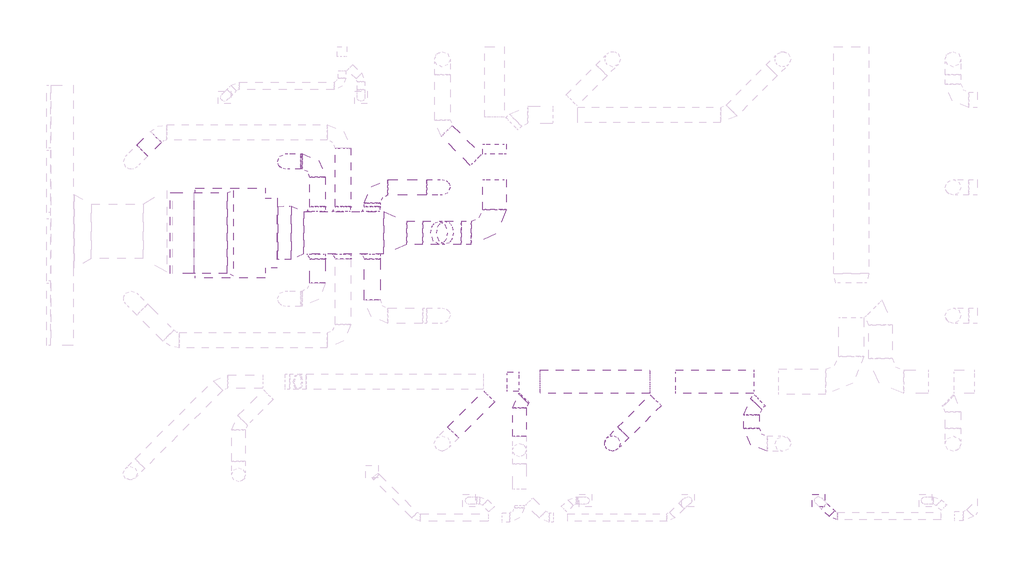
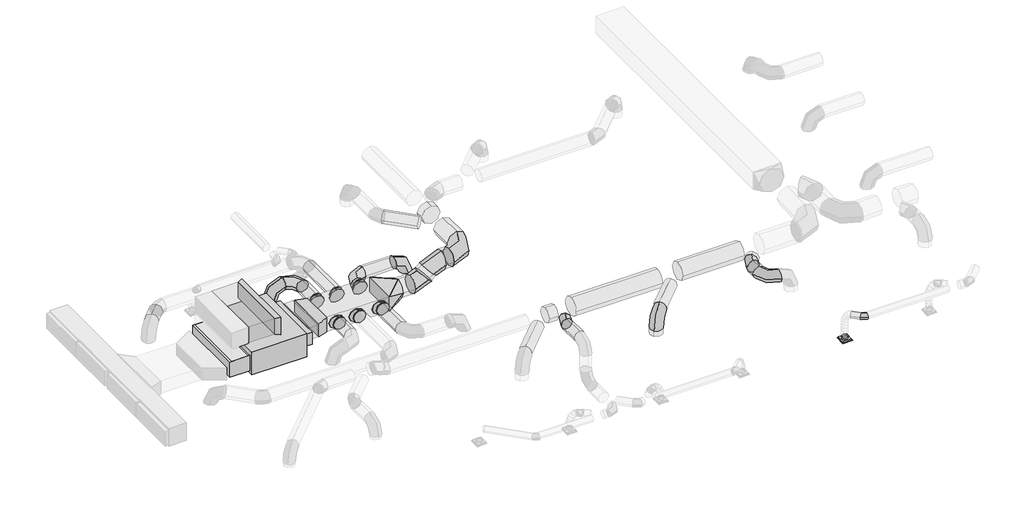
# One storey, part 3 of 33: 28 duct segments, 22 duct fittings, 1 air terminal, 1 proxy.
"""IFC4 building model written with IfcOpenShell, lengths in millimetres."""

from ifc_helpers import new_model, si_unit, point, frame, frame_2d, origin, place, context, project, spatial, polyline, circle_curve, trimmed, segment, composite_curve, outline, extrude, faceted_brep, transform, mapped, element, save
from components import air_terminal_0721d01d, fc_1_fc_1_6bba20b3, rectangular_transition_angle_45_degree_585fbb9b, rectangular_transition_angle_45_degree_32a00531, rectangular_transition_angle_45_degree_6ca9a747, rectangular_to_round_transition_angle_45_degree_3d5aa9e1, round_elbow_1_d_30de4f45, round_elbow_1_d_8aca8b6e, round_elbow_1_d_29f30982, round_elbow_1_d_755a5f0f, round_elbow_1_d_146a3901, round_elbow_1_d_ab3aa7ba, round_takeoff_shoe_standard_4355591a, round_takeoff_shoe_standard_229a81f8

model = new_model("IFC4")

# Units and contexts
model_context = context("Model", 3, world=origin())
ifc_project = project(units=[si_unit("LENGTHUNIT", "METRE", prefix="MILLI")], contexts=[model_context])

# Site, building, storey
site = spatial("IfcSite", under=ifc_project)
building = spatial("IfcBuilding", under=site)
storey = spatial("IfcBuildingStorey", under=building, Name="T.O. SLAB - 1ST", Elevation=-25.4)

# Air terminal
placement = place(None, origin())
air_terminal_shape = air_terminal_0721d01d(model_context)
element("IfcAirTerminal", 1, ObjectType="Titus-Round_Neck_Supply_Diffuser-PCS_Surface_Mount : PCS AA-08_12x12", at=placement, inside=storey, context=model_context, shape_type="MappedRepresentation", body=[
    mapped(air_terminal_shape, transform((17557.721449, 6517.7064145, 3022.6), x_axis=(1.0, 0.0, 0.0), y_axis=(0.0, -1.0, 0.0), z_axis=(0.0, 0.0, -1.0))),
])

# Proxy
fc_1_fc_1_shape = fc_1_fc_1_6bba20b3(model_context)
element("IfcBuildingElementProxy", 2, Name="FC-1 : FC-1", ObjectType="FC-1 : FC-1", at=placement, inside=storey, context=model_context, shape_type="MappedRepresentation", body=[
    mapped(fc_1_fc_1_shape, transform((2182.256743, 13515.736659, 3937.0), x_axis=(1.0, 0.0, 0.0), y_axis=(0.0, 1.0, 0.0), z_axis=(0.0, 0.0, 1.0))),
])

# Duct fittings
rectangular_transition_angle_45_degree_shape = rectangular_transition_angle_45_degree_585fbb9b(model_context)
element("IfcDuctFitting", 3, ObjectType="Rectangular Transition - Angle : 45 Degree", at=placement, inside=storey, context=model_context, shape_type="MappedRepresentation", body=[
    mapped(rectangular_transition_angle_45_degree_shape, transform((3412.569243, 13515.736659, 4307.68125), x_axis=(1.0, 0.0, 0.0), y_axis=(0.0, 1.0, 0.0), z_axis=(0.0, 0.0, 1.0))),
])
rectangular_transition_angle_45_degree_2_shape = rectangular_transition_angle_45_degree_32a00531(model_context)
element("IfcDuctFitting", 4, ObjectType="Rectangular Transition - Angle : 45 Degree", at=placement, inside=storey, context=model_context, shape_type="MappedRepresentation", body=[
    mapped(rectangular_transition_angle_45_degree_2_shape, transform((4104.283468, 13521.292909, 4324.35), x_axis=(-1.0, 0.0, 0.0), y_axis=(0.0, -1.0, 0.0), z_axis=(0.0, 0.0, 1.0))),
])
rectangular_transition_angle_45_degree_3_shape = rectangular_transition_angle_45_degree_6ca9a747(model_context)
element("IfcDuctFitting", 5, ObjectType="Rectangular Transition - Angle : 45 Degree", at=placement, inside=storey, context=model_context, shape_type="MappedRepresentation", body=[
    mapped(rectangular_transition_angle_45_degree_3_shape, transform((2099.0438923, 13514.942909, 5267.325), x_axis=(1.0, 0.0, 0.0), y_axis=(0.0, 1.0, 0.0), z_axis=(0.0, 0.0, 1.0))),
])
rectangular_to_round_transition_angle_45_degree_shape = rectangular_to_round_transition_angle_45_degree_3d5aa9e1(model_context)
element("IfcDuctFitting", 6, ObjectType="Rectangular to Round Transition - Angle : 45 Degree", at=placement, inside=storey, context=model_context, shape_type="MappedRepresentation", body=[
    mapped(rectangular_to_round_transition_angle_45_degree_shape, transform((6183.908468, 13521.292909, 4324.35), x_axis=(1.0, 0.0, 0.0), y_axis=(0.0, 1.0, 0.0), z_axis=(0.0, 0.0, 1.0))),
])
round_elbow_1_d_shape = round_elbow_1_d_30de4f45(model_context)
element("IfcDuctFitting", 7, ObjectType="Round Elbow : 1 D", at=placement, inside=storey, context=model_context, shape_type="MappedRepresentation", body=[
    mapped(round_elbow_1_d_shape, transform((15803.6526059, 8925.5831908, 4826.0), x_axis=(-0.7071067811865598, -0.7071067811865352, 0.0), y_axis=(0.7071067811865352, -0.7071067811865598, 0.0), z_axis=(0.0, 0.0, 1.0))),
])
round_elbow_1_d_2_shape = round_elbow_1_d_8aca8b6e(model_context)
element("IfcDuctFitting", 8, ObjectType="Round Elbow : 1 D", at=placement, inside=storey, context=model_context, shape_type="MappedRepresentation", body=[
    mapped(round_elbow_1_d_2_shape, transform((15803.6526059, 8003.2910045, 4826.0), x_axis=(0.0, -1.0, 0.0), y_axis=(1.0, 0.0, 0.0), z_axis=(0.0, 0.0, 1.0))),
])
element("IfcDuctFitting", 9, ObjectType="Round Elbow : 1 D", at=placement, inside=storey, context=model_context, shape_type="MappedRepresentation", body=[
    mapped(round_elbow_1_d_2_shape, transform((12165.8208695, 8009.0840058, 4826.0), x_axis=(0.0, 0.0, 1.0), y_axis=(0.7067046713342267, 0.7075086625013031, 0.0), z_axis=(-0.7075086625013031, 0.7067046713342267, 0.0))),
])
element("IfcDuctFitting", 10, ObjectType="Round Elbow : 1 D", at=placement, inside=storey, context=model_context, shape_type="MappedRepresentation", body=[
    mapped(round_elbow_1_d_2_shape, transform((5889.3958641, 14708.8910045, 4324.35), x_axis=(-1.0, 0.0, 0.0), y_axis=(0.0, -1.0, 0.0), z_axis=(0.0, 0.0, 1.0))),
])
element("IfcDuctFitting", 11, ObjectType="Round Elbow : 1 D", at=placement, inside=storey, context=model_context, shape_type="MappedRepresentation", body=[
    mapped(round_elbow_1_d_2_shape, transform((7721.5404612, 14708.8910045, 4324.35), x_axis=(0.0, 0.0, 1.0), y_axis=(-1.0, 0.0, 0.0), z_axis=(0.0, -1.0, 0.0))),
])
element("IfcDuctFitting", 12, ObjectType="Round Elbow : 1 D", at=placement, inside=storey, context=model_context, shape_type="MappedRepresentation", body=[
    mapped(round_elbow_1_d_2_shape, transform((3619.0860401, 15386.371589, 4324.35), x_axis=(0.0, 0.0, 1.0), y_axis=(1.0, 0.0, 0.0), z_axis=(0.0, 1.0, 0.0))),
])
element("IfcDuctFitting", 13, ObjectType="Round Elbow : 1 D", at=placement, inside=storey, context=model_context, shape_type="MappedRepresentation", body=[
    mapped(round_elbow_1_d_2_shape, transform((4462.1769123, 15386.371589, 4324.35), x_axis=(0.0, 1.0, 0.0), y_axis=(-1.0, 0.0, 0.0), z_axis=(0.0, 0.0, 1.0))),
])
round_elbow_1_d_3_shape = round_elbow_1_d_29f30982(model_context)
element("IfcDuctFitting", 14, ObjectType="Round Elbow : 1 D", at=placement, inside=storey, context=model_context, shape_type="MappedRepresentation", body=[
    mapped(round_elbow_1_d_3_shape, transform((9084.7808702, 13521.292909, 4832.35), x_axis=(1.0, 0.0, 0.0), y_axis=(0.0, 1.0, 0.0), z_axis=(0.0, 0.0, 1.0))),
])
round_elbow_1_d_4_shape = round_elbow_1_d_755a5f0f(model_context)
element("IfcDuctFitting", 15, ObjectType="Round Elbow : 1 D", at=placement, inside=storey, context=model_context, shape_type="MappedRepresentation", body=[
    mapped(round_elbow_1_d_4_shape, transform((7967.1808702, 13521.292909, 4832.35), x_axis=(-1.0, 0.0, 0.0), y_axis=(0.0, 0.0, -1.0), z_axis=(0.0, -1.0, 0.0))),
])
element("IfcDuctFitting", 16, ObjectType="Round Elbow : 1 D", at=placement, inside=storey, context=model_context, shape_type="MappedRepresentation", body=[
    mapped(round_elbow_1_d_4_shape, transform((7459.1808702, 13521.292909, 4324.35), x_axis=(-0.7071067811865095, 0.0, -0.7071067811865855), y_axis=(-0.7071067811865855, 0.0, 0.7071067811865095), z_axis=(0.0, 1.0, 0.0))),
])
round_elbow_1_d_5_shape = round_elbow_1_d_146a3901(model_context)
element("IfcDuctFitting", 17, ObjectType="Round Elbow : 1 D", at=placement, inside=storey, context=model_context, shape_type="MappedRepresentation", body=[
    mapped(round_elbow_1_d_5_shape, transform((9735.0963271, 9083.0248324, 4826.0), x_axis=(-0.7071067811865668, -0.7071067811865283, 0.0), y_axis=(0.7071067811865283, -0.7071067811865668, 0.0), z_axis=(0.0, 0.0, 1.0))),
])
round_elbow_1_d_6_shape = round_elbow_1_d_ab3aa7ba(model_context)
element("IfcDuctFitting", 18, ObjectType="Round Elbow : 1 D", at=placement, inside=storey, context=model_context, shape_type="MappedRepresentation", body=[
    mapped(round_elbow_1_d_6_shape, transform((17961.4519592, 6115.117656, 3911.6), x_axis=(0.7071067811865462, -0.7071067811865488, 0.0), y_axis=(0.7071067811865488, 0.7071067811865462, 0.0), z_axis=(0.0, 0.0, 1.0))),
])
round_takeoff_shoe_standard_shape = round_takeoff_shoe_standard_4355591a(model_context)
element("IfcDuctFitting", 19, ObjectType="Round Takeoff - Shoe : Standard", at=placement, inside=storey, context=model_context, shape_type="MappedRepresentation", body=[
    mapped(round_takeoff_shoe_standard_shape, transform((5889.3958641, 14080.092909, 4324.35), x_axis=(0.0, 1.0, 0.0), y_axis=(1.0, 0.0, 0.0), z_axis=(0.0, 0.0, -1.0))),
])
element("IfcDuctFitting", 20, ObjectType="Round Takeoff - Shoe : Standard", at=placement, inside=storey, context=model_context, shape_type="MappedRepresentation", body=[
    mapped(round_takeoff_shoe_standard_shape, transform((5126.1463704, 14080.092909, 4324.35), x_axis=(0.0, 1.0, 0.0), y_axis=(1.0, 0.0, 0.0), z_axis=(0.0, 0.0, -1.0))),
])
element("IfcDuctFitting", 21, ObjectType="Round Takeoff - Shoe : Standard", at=placement, inside=storey, context=model_context, shape_type="MappedRepresentation", body=[
    mapped(round_takeoff_shoe_standard_shape, transform((4462.1769123, 14080.092909, 4324.35), x_axis=(0.0, 1.0, 0.0), y_axis=(1.0, 0.0, 0.0), z_axis=(0.0, 0.0, -1.0))),
])
round_takeoff_shoe_standard_2_shape = round_takeoff_shoe_standard_229a81f8(model_context)
element("IfcDuctFitting", 22, ObjectType="Round Takeoff - Shoe : Standard", at=placement, inside=storey, context=model_context, shape_type="MappedRepresentation", body=[
    mapped(round_takeoff_shoe_standard_2_shape, transform((5889.3958641, 12962.492909, 4324.35), x_axis=(0.0, -1.0, 0.0), y_axis=(-1.0, 0.0, 0.0), z_axis=(0.0, 0.0, -1.0))),
])
element("IfcDuctFitting", 23, ObjectType="Round Takeoff - Shoe : Standard", at=placement, inside=storey, context=model_context, shape_type="MappedRepresentation", body=[
    mapped(round_takeoff_shoe_standard_2_shape, transform((5126.1463704, 12962.492909, 4324.35), x_axis=(0.0, -1.0, 0.0), y_axis=(-1.0, 0.0, 0.0), z_axis=(0.0, 0.0, -1.0))),
])
element("IfcDuctFitting", 24, ObjectType="Round Takeoff - Shoe : Standard", at=placement, inside=storey, context=model_context, shape_type="MappedRepresentation", body=[
    mapped(round_takeoff_shoe_standard_2_shape, transform((4462.1769123, 12962.492909, 4324.35), x_axis=(0.0, -1.0, 0.0), y_axis=(-1.0, 0.0, 0.0), z_axis=(0.0, 0.0, -1.0))),
])

# Duct segments
element("IfcDuctSegment", 25, ObjectType="Flex - Rectangular", at=placement, inside=storey, context=model_context, shape_type="Brep", body=[
    faceted_brep([(3767.0178333, 14219.792909, 4540.25), (3767.0178333, 12822.792909, 4540.25), (3767.0178333, 12822.792909, 4108.45), (3767.0178333, 14219.792909, 4108.45), (3720.9928545, 14219.792909, 4540.25), (3734.523703, 12822.792909, 4540.25), (3747.0704898, 12822.792909, 4108.45), (3733.5396413, 14219.792909, 4108.45), (3414.485525, 14214.236659, 4523.58125), (3414.485525, 14214.236659, 4091.78125), (3414.485525, 12817.236659, 4091.78125), (3414.485525, 12817.236659, 4523.58125), (3434.4328685, 14214.236659, 4523.58125), (3447.963717, 12817.236659, 4523.58125), (3460.5105038, 12817.236659, 4091.78125), (3446.9796553, 14214.236659, 4091.78125)], [[[0, 1, 2, 3]], [[1, 0, 4, 5]], [[2, 1, 5, 6]], [[3, 2, 6, 7]], [[0, 3, 7, 4]], [[8, 9, 10, 11]], [[5, 4, 12, 13]], [[6, 5, 13, 14]], [[7, 6, 14, 15]], [[12, 4, 7, 15]], [[13, 12, 8, 11]], [[14, 13, 11, 10]], [[15, 14, 10, 9]], [[12, 15, 9, 8]]]),
])
element("IfcDuctSegment", 26, ObjectType="Mitered Elbows / Tees", at=placement, inside=storey, context=model_context, shape_type="SweptSolid", body=[
    extrude(outline(polyline([(1231.2447938, 12460.842909), (1231.2447938, 14569.042909), (2099.0438923, 14569.042909), (2099.0438923, 12460.842909), (1231.2447938, 12460.842909)])), frame((0.0, 0.0, 5000.625), z_axis=(0.0, 0.0, 1.0), x_axis=(1.0, 0.0, 0.0)), (0.0, 0.0, 1.0), 533.4),
])
element("IfcDuctSegment", 27, ObjectType="Radius Elbows / Tees", at=placement, inside=storey, context=model_context, shape_type="SweptSolid", body=[
    extrude(outline(polyline([(6183.908468, 14080.092909), (6183.908468, 12962.492909), (4104.283468, 12962.492909), (4104.283468, 14080.092909), (6183.908468, 14080.092909)])), frame((0.0, 0.0, 4070.35), z_axis=(0.0, 0.0, 1.0), x_axis=(1.0, 0.0, 0.0)), (0.0, 0.0, 1.0), 508.0),
])
element("IfcDuctSegment", 28, ObjectType="Taps", at=placement, inside=storey, context=model_context, shape_type="SweptSolid", body=[
    extrude(outline(composite_curve([segment(trimmed(circle_curve(frame_2d((9627.2657862, 4826.0)), 304.8), [point((9932.0657862, 4826.0))], [point((9627.2657862, 4521.2))], False, "CARTESIAN"), True, "CONTINUOUS"), segment(trimmed(circle_curve(frame_2d((9627.2657862, 4826.0)), 304.8), [point((9627.2657862, 4521.2))], [point((9322.4657862, 4826.0))], False, "CARTESIAN"), True, "CONTINUOUS"), segment(trimmed(circle_curve(frame_2d((9627.2657862, 4826.0)), 304.8), [point((9322.4657862, 4826.0))], [point((9627.2657862, 5130.8))], False, "CARTESIAN"), True, "CONTINUOUS"), segment(trimmed(circle_curve(frame_2d((9627.2657862, 4826.0)), 304.8), [point((9627.2657862, 5130.8))], [point((9932.0657862, 4826.0))], False, "CARTESIAN"), True, "CONTINUOUS")], self_intersect=False)), frame((10281.3692897, 0.0, 0.0), z_axis=(1.0, 0.0, 0.0), x_axis=(0.0, 1.0, 0.0)), (0.0, 0.0, 1.0), 2858.3767753),
])
element("IfcDuctSegment", 29, ObjectType="Taps", at=placement, inside=storey, context=model_context, shape_type="SweptSolid", body=[
    extrude(outline(composite_curve([segment(trimmed(circle_curve(frame_2d((0.0, -203.2)), 203.2), [point((-203.1999999, -203.2))], [point((0.0, 0.0))], False, "CARTESIAN"), True, "CONTINUOUS"), segment(trimmed(circle_curve(frame_2d((0.0, -203.2)), 203.2), [point((0.0, 0.0))], [point((203.2, -203.2))], False, "CARTESIAN"), True, "CONTINUOUS"), segment(trimmed(circle_curve(frame_2d((0.0, -203.2)), 203.2), [point((203.2, -203.2))], [point((0.0, -406.4))], False, "CARTESIAN"), True, "CONTINUOUS"), segment(trimmed(circle_curve(frame_2d((0.0, -203.2)), 203.2), [point((0.0, -406.4))], [point((-203.1999999, -203.2))], False, "CARTESIAN"), True, "CONTINUOUS")], self_intersect=False)), frame((15922.68441, 9044.614995, 4622.8), z_axis=(0.7071067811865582, 0.7071067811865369, 0.0), x_axis=(0.7071067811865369, -0.7071067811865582, 0.0)), (0.0, 0.0, 1.0), 136.1538982),
])
element("IfcDuctSegment", 30, ObjectType="Taps", at=placement, inside=storey, context=model_context, shape_type="SweptSolid", body=[
    extrude(outline(composite_curve([segment(trimmed(circle_curve(frame_2d((4826.0, 15803.6526059)), 203.2), [point((4826.0, 15600.4526059))], [point((4622.8, 15803.6526059))], False, "CARTESIAN"), True, "CONTINUOUS"), segment(trimmed(circle_curve(frame_2d((4826.0, 15803.6526059)), 203.2), [point((4622.8, 15803.6526059))], [point((4826.0, 16006.8526059))], False, "CARTESIAN"), True, "CONTINUOUS"), segment(trimmed(circle_curve(frame_2d((4826.0, 15803.6526059)), 203.2), [point((4826.0, 16006.8526059))], [point((5029.2, 15803.6526059))], False, "CARTESIAN"), True, "CONTINUOUS"), segment(trimmed(circle_curve(frame_2d((4826.0, 15803.6526059)), 203.2), [point((5029.2, 15803.6526059))], [point((4826.0, 15600.4526059))], False, "CARTESIAN"), True, "CONTINUOUS")], self_intersect=False)), frame((0.0, 8409.6910045, 0.0), z_axis=(0.0, 1.0, 0.0), x_axis=(0.0, 0.0, 1.0)), (0.0, 0.0, 1.0), 347.5557946),
])
element("IfcDuctSegment", 31, ObjectType="Taps", at=placement, inside=storey, context=model_context, shape_type="SweptSolid", body=[
    extrude(outline(composite_curve([segment(trimmed(circle_curve(frame_2d((9627.2657862, 4826.0)), 304.8), [point((9932.0657862, 4826.0))], [point((9627.2657862, 4521.2))], False, "CARTESIAN"), True, "CONTINUOUS"), segment(trimmed(circle_curve(frame_2d((9627.2657862, 4826.0)), 304.8), [point((9627.2657862, 4521.2))], [point((9322.4657862, 4826.0))], False, "CARTESIAN"), True, "CONTINUOUS"), segment(trimmed(circle_curve(frame_2d((9627.2657862, 4826.0)), 304.8), [point((9322.4657862, 4826.0))], [point((9627.2657862, 5130.8))], False, "CARTESIAN"), True, "CONTINUOUS"), segment(trimmed(circle_curve(frame_2d((9627.2657862, 4826.0)), 304.8), [point((9627.2657862, 5130.8))], [point((9932.0657862, 4826.0))], False, "CARTESIAN"), True, "CONTINUOUS")], self_intersect=False)), frame((13816.0824567, 0.0, 0.0), z_axis=(1.0, 0.0, 0.0), x_axis=(0.0, 1.0, 0.0)), (0.0, 0.0, 1.0), 2044.3142245),
])
element("IfcDuctSegment", 32, ObjectType="Taps", at=placement, inside=storey, context=model_context, shape_type="SweptSolid", body=[
    extrude(outline(composite_curve([segment(trimmed(circle_curve(frame_2d((0.0, -203.2)), 203.2), [point((-203.2, -203.2))], [point((0.0, 0.0))], False, "CARTESIAN"), True, "CONTINUOUS"), segment(trimmed(circle_curve(frame_2d((0.0, -203.2)), 203.2), [point((0.0, 0.0))], [point((203.2, -203.2))], False, "CARTESIAN"), True, "CONTINUOUS"), segment(trimmed(circle_curve(frame_2d((0.0, -203.2)), 203.2), [point((203.2, -203.2))], [point((0.0, -406.4))], False, "CARTESIAN"), True, "CONTINUOUS"), segment(trimmed(circle_curve(frame_2d((0.0, -203.2)), 203.2), [point((0.0, -406.4))], [point((-203.2, -203.2))], False, "CARTESIAN"), True, "CONTINUOUS")], self_intersect=False)), frame((12453.0256479, 8296.6155262, 4622.8), z_axis=(0.7067046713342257, 0.7075086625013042, 0.0), x_axis=(0.7075086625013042, -0.7067046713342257, 0.0)), (0.0, 0.0, 1.0), 1196.0915567),
])
element("IfcDuctSegment", 33, ObjectType="Taps", at=placement, inside=storey, context=model_context, shape_type="SweptSolid", body=[
    extrude(outline(composite_curve([segment(trimmed(circle_curve(frame_2d((12165.8208695, 8009.0840058)), 203.2), [point((12309.5866297, 7865.4816166))], [point((12022.2184803, 7865.3182456))], False, "CARTESIAN"), True, "CONTINUOUS"), segment(trimmed(circle_curve(frame_2d((12165.8208695, 8009.0840058)), 203.2), [point((12022.2184803, 7865.3182456))], [point((12022.0551093, 8152.686395))], False, "CARTESIAN"), True, "CONTINUOUS"), segment(trimmed(circle_curve(frame_2d((12165.8208695, 8009.0840058)), 203.2), [point((12022.0551093, 8152.686395))], [point((12309.4232587, 8152.849766))], False, "CARTESIAN"), True, "CONTINUOUS"), segment(trimmed(circle_curve(frame_2d((12165.8208695, 8009.0840058)), 203.2), [point((12309.4232587, 8152.849766))], [point((12309.5866297, 7865.4816166))], False, "CARTESIAN"), True, "CONTINUOUS")], self_intersect=False)), frame((0.0, 0.0, 4216.4), z_axis=(0.0, 0.0, 1.0), x_axis=(1.0, 0.0, 0.0)), (0.0, 0.0, 1.0), 203.2),
])
element("IfcDuctSegment", 34, ObjectType="Taps", at=placement, inside=storey, context=model_context, shape_type="SweptSolid", body=[
    extrude(outline(composite_curve([segment(trimmed(circle_curve(frame_2d((0.0, -177.8)), 177.8), [point((-177.8, -177.8))], [point((0.0, 0.0))], False, "CARTESIAN"), True, "CONTINUOUS"), segment(trimmed(circle_curve(frame_2d((0.0, -177.8)), 177.8), [point((0.0, 0.0))], [point((177.8, -177.8))], False, "CARTESIAN"), True, "CONTINUOUS"), segment(trimmed(circle_curve(frame_2d((0.0, -177.8)), 177.8), [point((177.8, -177.8))], [point((0.0, -355.6))], False, "CARTESIAN"), True, "CONTINUOUS"), segment(trimmed(circle_curve(frame_2d((0.0, -177.8)), 177.8), [point((0.0, -355.6))], [point((-177.8, -177.8))], False, "CARTESIAN"), True, "CONTINUOUS")], self_intersect=False)), frame((9839.2491557, 9187.177661, 4648.2), z_axis=(0.7071067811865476, 0.7071067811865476, 0.0), x_axis=(0.7071067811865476, -0.7071067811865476, 0.0)), (0.0, 0.0, 1.0), 28.0844112),
])
element("IfcDuctSegment", 35, ObjectType="Taps", at=placement, inside=storey, context=model_context, shape_type="SweptSolid", body=[
    extrude(outline(composite_curve([segment(trimmed(circle_curve(frame_2d((4826.0, 9735.0963271)), 177.8), [point((4826.0, 9557.2963271))], [point((4648.2, 9735.0963271))], False, "CARTESIAN"), True, "CONTINUOUS"), segment(trimmed(circle_curve(frame_2d((4826.0, 9735.0963271)), 177.8), [point((4648.2, 9735.0963271))], [point((4826.0, 9912.8963271))], False, "CARTESIAN"), True, "CONTINUOUS"), segment(trimmed(circle_curve(frame_2d((4826.0, 9735.0963271)), 177.8), [point((4826.0, 9912.8963271))], [point((5003.8, 9735.0963271))], False, "CARTESIAN"), True, "CONTINUOUS"), segment(trimmed(circle_curve(frame_2d((4826.0, 9735.0963271)), 177.8), [point((5003.8, 9735.0963271))], [point((4826.0, 9557.2963271))], False, "CARTESIAN"), True, "CONTINUOUS")], self_intersect=False)), frame((0.0, 8195.202261, 0.0), z_axis=(0.0, 1.0, 0.0), x_axis=(0.0, 0.0, 1.0)), (0.0, 0.0, 1.0), 740.5282286),
])
element("IfcDuctSegment", 36, ObjectType="Taps", at=placement, inside=storey, context=model_context, shape_type="SweptSolid", body=[
    extrude(outline(composite_curve([segment(trimmed(circle_curve(frame_2d((9627.2657862, 4826.0)), 254.0), [point((9881.2657862, 4826.0))], [point((9627.2657862, 4572.0))], False, "CARTESIAN"), True, "CONTINUOUS"), segment(trimmed(circle_curve(frame_2d((9627.2657862, 4826.0)), 254.0), [point((9627.2657862, 4572.0))], [point((9373.2657862, 4826.0))], False, "CARTESIAN"), True, "CONTINUOUS"), segment(trimmed(circle_curve(frame_2d((9627.2657862, 4826.0)), 254.0), [point((9373.2657862, 4826.0))], [point((9627.2657862, 5080.0))], False, "CARTESIAN"), True, "CONTINUOUS"), segment(trimmed(circle_curve(frame_2d((9627.2657862, 4826.0)), 254.0), [point((9627.2657862, 5080.0))], [point((9881.2657862, 4826.0))], False, "CARTESIAN"), True, "CONTINUOUS")], self_intersect=False)), frame((9420.8749139, 0.0, 0.0), z_axis=(1.0, 0.0, 0.0), x_axis=(0.0, 1.0, 0.0)), (0.0, 0.0, 1.0), 297.6303582),
])
element("IfcDuctSegment", 37, ObjectType="Taps", at=placement, inside=storey, context=model_context, shape_type="SweptSolid", body=[
    extrude(outline(composite_curve([segment(trimmed(circle_curve(frame_2d((0.0, -203.2)), 203.2), [point((-203.2, -203.2))], [point((0.0, 0.0))], False, "CARTESIAN"), True, "CONTINUOUS"), segment(trimmed(circle_curve(frame_2d((0.0, -203.2)), 203.2), [point((0.0, 0.0))], [point((203.2, -203.2))], False, "CARTESIAN"), True, "CONTINUOUS"), segment(trimmed(circle_curve(frame_2d((0.0, -203.2)), 203.2), [point((203.2, -203.2))], [point((0.0, -406.4))], False, "CARTESIAN"), True, "CONTINUOUS"), segment(trimmed(circle_curve(frame_2d((0.0, -203.2)), 203.2), [point((0.0, -406.4))], [point((-203.2, -203.2))], False, "CARTESIAN"), True, "CONTINUOUS")], self_intersect=False)), frame((8002.9707055, 8296.5908716, 4622.8), z_axis=(0.7067276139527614, 0.70748574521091, 0.0), x_axis=(0.70748574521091, -0.7067276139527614, 0.0)), (0.0, 0.0, 1.0), 1334.016044),
])
element("IfcDuctSegment", 38, ObjectType="Taps", at=placement, inside=storey, context=model_context, shape_type="SweptSolid", body=[
    extrude(outline(composite_curve([segment(trimmed(circle_curve(frame_2d((13521.292909, 4832.35)), 304.8), [point((13826.092909, 4832.35))], [point((13521.292909, 4527.55))], False, "CARTESIAN"), True, "CONTINUOUS"), segment(trimmed(circle_curve(frame_2d((13521.292909, 4832.35)), 304.8), [point((13521.292909, 4527.55))], [point((13216.492909, 4832.35))], False, "CARTESIAN"), True, "CONTINUOUS"), segment(trimmed(circle_curve(frame_2d((13521.292909, 4832.35)), 304.8), [point((13216.492909, 4832.35))], [point((13521.292909, 5137.15))], False, "CARTESIAN"), True, "CONTINUOUS"), segment(trimmed(circle_curve(frame_2d((13521.292909, 4832.35)), 304.8), [point((13521.292909, 5137.15))], [point((13826.092909, 4832.35))], False, "CARTESIAN"), True, "CONTINUOUS")], self_intersect=False)), frame((8219.6854579, 0.0, 0.0), z_axis=(1.0, 0.0, 0.0), x_axis=(0.0, 1.0, 0.0)), (0.0, 0.0, 1.0), 255.4954124),
])
element("IfcDuctSegment", 39, ObjectType="Taps", at=placement, inside=storey, context=model_context, shape_type="SweptSolid", body=[
    extrude(outline(composite_curve([segment(trimmed(circle_curve(frame_2d((4832.35, 9084.7808702)), 304.8), [point((4832.35, 9389.5808702))], [point((5137.15, 9084.7808702))], False, "CARTESIAN"), True, "CONTINUOUS"), segment(trimmed(circle_curve(frame_2d((4832.35, 9084.7808702)), 304.8), [point((5137.15, 9084.7808702))], [point((4832.35, 8779.9808702))], False, "CARTESIAN"), True, "CONTINUOUS"), segment(trimmed(circle_curve(frame_2d((4832.35, 9084.7808702)), 304.8), [point((4832.35, 8779.9808702))], [point((4527.55, 9084.7808702))], False, "CARTESIAN"), True, "CONTINUOUS"), segment(trimmed(circle_curve(frame_2d((4832.35, 9084.7808702)), 304.8), [point((4527.55, 9084.7808702))], [point((4832.35, 9389.5808702))], False, "CARTESIAN"), True, "CONTINUOUS")], self_intersect=False)), frame((0.0, 14130.892909, 0.0), z_axis=(0.0, 1.0, 0.0), x_axis=(0.0, 0.0, 1.0)), (0.0, 0.0, 1.0), 779.4318041),
])
element("IfcDuctSegment", 40, ObjectType="Taps", at=placement, inside=storey, context=model_context, shape_type="SweptSolid", body=[
    extrude(outline(composite_curve([segment(trimmed(circle_curve(frame_2d((0.0, 203.2)), 203.2), [point((203.2, 203.2))], [point((0.0, 0.0))], False, "CARTESIAN"), True, "CONTINUOUS"), segment(trimmed(circle_curve(frame_2d((0.0, 203.2)), 203.2), [point((0.0, 0.0))], [point((-203.2, 203.2))], False, "CARTESIAN"), True, "CONTINUOUS"), segment(trimmed(circle_curve(frame_2d((0.0, 203.2)), 203.2), [point((-203.2, 203.2))], [point((0.0, 406.4))], False, "CARTESIAN"), True, "CONTINUOUS"), segment(trimmed(circle_curve(frame_2d((0.0, 203.2)), 203.2), [point((0.0, 406.4))], [point((203.2, 203.2))], False, "CARTESIAN"), True, "CONTINUOUS")], self_intersect=False)), frame((8600.3757478, 15428.0980314, 5035.55), z_axis=(-0.7071067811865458, 0.7071067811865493, 0.0), x_axis=(0.7071067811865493, 0.7071067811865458, 0.0)), (0.0, 0.0, 1.0), 1074.5243896),
])
element("IfcDuctSegment", 41, ObjectType="Taps", at=placement, inside=storey, context=model_context, shape_type="SweptSolid", body=[
    extrude(outline(composite_curve([segment(trimmed(circle_curve(frame_2d((4832.35, 9084.7808702)), 304.8), [point((4832.35, 9389.5808702))], [point((5137.15, 9084.7808702))], False, "CARTESIAN"), True, "CONTINUOUS"), segment(trimmed(circle_curve(frame_2d((4832.35, 9084.7808702)), 304.8), [point((5137.15, 9084.7808702))], [point((4832.35, 8779.9808702))], False, "CARTESIAN"), True, "CONTINUOUS"), segment(trimmed(circle_curve(frame_2d((4832.35, 9084.7808702)), 304.8), [point((4832.35, 8779.9808702))], [point((4527.55, 9084.7808702))], False, "CARTESIAN"), True, "CONTINUOUS"), segment(trimmed(circle_curve(frame_2d((4832.35, 9084.7808702)), 304.8), [point((4527.55, 9084.7808702))], [point((4832.35, 9389.5808702))], False, "CARTESIAN"), True, "CONTINUOUS")], self_intersect=False)), frame((0.0, 15586.6611048, 0.0), z_axis=(0.0, 1.0, 0.0), x_axis=(0.0, 0.0, 1.0)), (0.0, 0.0, 1.0), 260.7421649),
])
element("IfcDuctSegment", 42, ObjectType="Taps", at=placement, inside=storey, context=model_context, shape_type="SweptSolid", body=[
    extrude(outline(composite_curve([segment(trimmed(circle_curve(frame_2d((14708.8910045, 4324.35)), 203.2), [point((14505.6910045, 4324.35))], [point((14708.8910045, 4527.55))], False, "CARTESIAN"), True, "CONTINUOUS"), segment(trimmed(circle_curve(frame_2d((14708.8910045, 4324.35)), 203.2), [point((14708.8910045, 4527.55))], [point((14912.0910045, 4324.35))], False, "CARTESIAN"), True, "CONTINUOUS"), segment(trimmed(circle_curve(frame_2d((14708.8910045, 4324.35)), 203.2), [point((14912.0910045, 4324.35))], [point((14708.8910045, 4121.15))], False, "CARTESIAN"), True, "CONTINUOUS"), segment(trimmed(circle_curve(frame_2d((14708.8910045, 4324.35)), 203.2), [point((14708.8910045, 4121.15))], [point((14505.6910045, 4324.35))], False, "CARTESIAN"), True, "CONTINUOUS")], self_intersect=False)), frame((6295.7958641, 0.0, 0.0), z_axis=(1.0, 0.0, 0.0), x_axis=(0.0, 1.0, 0.0)), (0.0, 0.0, 1.0), 1019.3445971),
])
element("IfcDuctSegment", 43, ObjectType="Taps", at=placement, inside=storey, context=model_context, shape_type="SweptSolid", body=[
    extrude(outline(composite_curve([segment(trimmed(circle_curve(frame_2d((4324.35, 5889.3958641)), 203.2), [point((4324.35, 6092.5958641))], [point((4527.55, 5889.3958641))], False, "CARTESIAN"), True, "CONTINUOUS"), segment(trimmed(circle_curve(frame_2d((4324.35, 5889.3958641)), 203.2), [point((4527.55, 5889.3958641))], [point((4324.35, 5686.1958641))], False, "CARTESIAN"), True, "CONTINUOUS"), segment(trimmed(circle_curve(frame_2d((4324.35, 5889.3958641)), 203.2), [point((4324.35, 5686.1958641))], [point((4121.15, 5889.3958641))], False, "CARTESIAN"), True, "CONTINUOUS"), segment(trimmed(circle_curve(frame_2d((4324.35, 5889.3958641)), 203.2), [point((4121.15, 5889.3958641))], [point((4324.35, 6092.5958641))], False, "CARTESIAN"), True, "CONTINUOUS")], self_intersect=False)), frame((0.0, 14207.092909, 0.0), z_axis=(0.0, 1.0, 0.0), x_axis=(0.0, 0.0, 1.0)), (0.0, 0.0, 1.0), 95.3980956),
])
element("IfcDuctSegment", 44, ObjectType="Taps", at=placement, inside=storey, context=model_context, shape_type="SweptSolid", body=[
    extrude(outline(composite_curve([segment(trimmed(circle_curve(frame_2d((4324.35, 5126.1463704)), 203.2), [point((4324.35, 5329.3463704))], [point((4527.55, 5126.1463704))], False, "CARTESIAN"), True, "CONTINUOUS"), segment(trimmed(circle_curve(frame_2d((4324.35, 5126.1463704)), 203.2), [point((4527.55, 5126.1463704))], [point((4324.35, 4922.9463704))], False, "CARTESIAN"), True, "CONTINUOUS"), segment(trimmed(circle_curve(frame_2d((4324.35, 5126.1463704)), 203.2), [point((4324.35, 4922.9463704))], [point((4121.15, 5126.1463704))], False, "CARTESIAN"), True, "CONTINUOUS"), segment(trimmed(circle_curve(frame_2d((4324.35, 5126.1463704)), 203.2), [point((4121.15, 5126.1463704))], [point((4324.35, 5329.3463704))], False, "CARTESIAN"), True, "CONTINUOUS")], self_intersect=False)), frame((0.0, 14207.092909, 0.0), z_axis=(0.0, 1.0, 0.0), x_axis=(0.0, 0.0, 1.0)), (0.0, 0.0, 1.0), 1535.8492923),
])
element("IfcDuctSegment", 45, ObjectType="Taps", at=placement, inside=storey, context=model_context, shape_type="SweptSolid", body=[
    extrude(outline(composite_curve([segment(trimmed(circle_curve(frame_2d((0.0, -203.2)), 203.2), [point((-203.2000001, -203.2))], [point((0.0, 0.0))], False, "CARTESIAN"), True, "CONTINUOUS"), segment(trimmed(circle_curve(frame_2d((0.0, -203.2)), 203.2), [point((0.0, 0.0))], [point((203.1999999, -203.2))], False, "CARTESIAN"), True, "CONTINUOUS"), segment(trimmed(circle_curve(frame_2d((0.0, -203.2)), 203.2), [point((203.1999999, -203.2))], [point((0.0, -406.4))], False, "CARTESIAN"), True, "CONTINUOUS"), segment(trimmed(circle_curve(frame_2d((0.0, -203.2)), 203.2), [point((0.0, -406.4))], [point((-203.2000001, -203.2))], False, "CARTESIAN"), True, "CONTINUOUS")], self_intersect=False)), frame((-121.0345142, 15673.7399301, 4121.15), z_axis=(0.7063958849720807, 0.7078169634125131, 0.0), x_axis=(0.7078169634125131, -0.7063958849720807, 0.0)), (0.0, 0.0, 1.0), 503.3526705),
])
element("IfcDuctSegment", 46, ObjectType="Taps", at=placement, inside=storey, context=model_context, shape_type="SweptSolid", body=[
    extrude(outline(composite_curve([segment(trimmed(circle_curve(frame_2d((4324.35, 4462.1769123)), 203.2), [point((4324.35, 4258.9769123))], [point((4121.15, 4462.1769123))], False, "CARTESIAN"), True, "CONTINUOUS"), segment(trimmed(circle_curve(frame_2d((4324.35, 4462.1769123)), 203.2), [point((4121.15, 4462.1769123))], [point((4324.35, 4665.3769123))], False, "CARTESIAN"), True, "CONTINUOUS"), segment(trimmed(circle_curve(frame_2d((4324.35, 4462.1769123)), 203.2), [point((4324.35, 4665.3769123))], [point((4527.55, 4462.1769123))], False, "CARTESIAN"), True, "CONTINUOUS"), segment(trimmed(circle_curve(frame_2d((4324.35, 4462.1769123)), 203.2), [point((4527.55, 4462.1769123))], [point((4324.35, 4258.9769123))], False, "CARTESIAN"), True, "CONTINUOUS")], self_intersect=False)), frame((0.0, 14207.092909, 0.0), z_axis=(0.0, 1.0, 0.0), x_axis=(0.0, 0.0, 1.0)), (0.0, 0.0, 1.0), 772.8786801),
])
element("IfcDuctSegment", 47, ObjectType="Taps", at=placement, inside=storey, context=model_context, shape_type="SweptSolid", body=[
    extrude(outline(composite_curve([segment(trimmed(circle_curve(frame_2d((15386.371589, 4324.35)), 203.2), [point((15589.571589, 4324.35))], [point((15386.371589, 4121.15))], False, "CARTESIAN"), True, "CONTINUOUS"), segment(trimmed(circle_curve(frame_2d((15386.371589, 4324.35)), 203.2), [point((15386.371589, 4121.15))], [point((15183.171589, 4324.35))], False, "CARTESIAN"), True, "CONTINUOUS"), segment(trimmed(circle_curve(frame_2d((15386.371589, 4324.35)), 203.2), [point((15183.171589, 4324.35))], [point((15386.371589, 4527.55))], False, "CARTESIAN"), True, "CONTINUOUS"), segment(trimmed(circle_curve(frame_2d((15386.371589, 4324.35)), 203.2), [point((15386.371589, 4527.55))], [point((15589.571589, 4324.35))], False, "CARTESIAN"), True, "CONTINUOUS")], self_intersect=False)), frame((4025.4860401, 0.0, 0.0), z_axis=(1.0, 0.0, 0.0), x_axis=(0.0, 1.0, 0.0)), (0.0, 0.0, 1.0), 30.2908721),
])
element("IfcDuctSegment", 48, ObjectType="Taps", at=placement, inside=storey, context=model_context, shape_type="SweptSolid", body=[
    extrude(outline(composite_curve([segment(trimmed(circle_curve(frame_2d((4324.35, 5889.3958641)), 203.2), [point((4324.35, 5686.1958641))], [point((4121.15, 5889.3958641))], False, "CARTESIAN"), True, "CONTINUOUS"), segment(trimmed(circle_curve(frame_2d((4324.35, 5889.3958641)), 203.2), [point((4121.15, 5889.3958641))], [point((4324.35, 6092.5958641))], False, "CARTESIAN"), True, "CONTINUOUS"), segment(trimmed(circle_curve(frame_2d((4324.35, 5889.3958641)), 203.2), [point((4324.35, 6092.5958641))], [point((4527.55, 5889.3958641))], False, "CARTESIAN"), True, "CONTINUOUS"), segment(trimmed(circle_curve(frame_2d((4324.35, 5889.3958641)), 203.2), [point((4527.55, 5889.3958641))], [point((4324.35, 5686.1958641))], False, "CARTESIAN"), True, "CONTINUOUS")], self_intersect=False)), frame((0.0, 11759.370022, 0.0), z_axis=(0.0, 1.0, 0.0), x_axis=(0.0, 0.0, 1.0)), (0.0, 0.0, 1.0), 1076.122887),
])
element("IfcDuctSegment", 49, ObjectType="Taps", at=placement, inside=storey, context=model_context, shape_type="SweptSolid", body=[
    extrude(outline(composite_curve([segment(trimmed(circle_curve(frame_2d((4324.35, 4462.1769123)), 203.2), [point((4324.35, 4665.3769123))], [point((4527.55, 4462.1769123))], False, "CARTESIAN"), True, "CONTINUOUS"), segment(trimmed(circle_curve(frame_2d((4324.35, 4462.1769123)), 203.2), [point((4527.55, 4462.1769123))], [point((4324.35, 4258.9769123))], False, "CARTESIAN"), True, "CONTINUOUS"), segment(trimmed(circle_curve(frame_2d((4324.35, 4462.1769123)), 203.2), [point((4324.35, 4258.9769123))], [point((4121.15, 4462.1769123))], False, "CARTESIAN"), True, "CONTINUOUS"), segment(trimmed(circle_curve(frame_2d((4324.35, 4462.1769123)), 203.2), [point((4121.15, 4462.1769123))], [point((4324.35, 4665.3769123))], False, "CARTESIAN"), True, "CONTINUOUS")], self_intersect=False)), frame((0.0, 12206.5985722, 0.0), z_axis=(0.0, 1.0, 0.0), x_axis=(0.0, 0.0, 1.0)), (0.0, 0.0, 1.0), 628.8943368),
])
element("IfcDuctSegment", 50, ObjectType="Taps", at=placement, inside=storey, context=model_context, shape_type="SweptSolid", body=[
    extrude(outline(composite_curve([segment(trimmed(circle_curve(frame_2d((0.0, 101.6)), 101.6), [point((101.6, 101.6))], [point((0.0, 0.0))], False, "CARTESIAN"), True, "CONTINUOUS"), segment(trimmed(circle_curve(frame_2d((0.0, 101.6)), 101.6), [point((0.0, 0.0))], [point((-101.6, 101.6))], False, "CARTESIAN"), True, "CONTINUOUS"), segment(trimmed(circle_curve(frame_2d((0.0, 101.6)), 101.6), [point((-101.6, 101.6))], [point((0.0, 203.2))], False, "CARTESIAN"), True, "CONTINUOUS"), segment(trimmed(circle_curve(frame_2d((0.0, 101.6)), 101.6), [point((0.0, 203.2))], [point((101.6, 101.6))], False, "CARTESIAN"), True, "CONTINUOUS")], self_intersect=False)), frame((17901.9360571, 6174.6335581, 4013.2), z_axis=(-0.7071067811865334, 0.7071067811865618, 0.0), x_axis=(0.7071067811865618, 0.7071067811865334, 0.0)), (0.0, 0.0, 1.0), 283.5931165),
])
element("IfcDuctSegment", 51, ObjectType="Taps", at=placement, inside=storey, context=model_context, shape_type="SweptSolid", body=[
    extrude(outline(composite_curve([segment(trimmed(circle_curve(frame_2d((0.0, -304.8)), 304.8), [point((0.0, 0.0))], [point((304.8, -304.8))], False, "CARTESIAN"), True, "CONTINUOUS"), segment(trimmed(circle_curve(frame_2d((0.0, -304.8)), 304.8), [point((304.8, -304.8))], [point((0.0, -609.6))], False, "CARTESIAN"), True, "CONTINUOUS"), segment(trimmed(circle_curve(frame_2d((0.0, -304.8)), 304.8), [point((0.0, -609.6))], [point((-304.8, -304.8))], False, "CARTESIAN"), True, "CONTINUOUS"), segment(trimmed(circle_curve(frame_2d((0.0, -304.8)), 304.8), [point((-304.8, -304.8))], [point((0.0, 0.0))], False, "CARTESIAN"), True, "CONTINUOUS")], self_intersect=False)), frame((7637.7285764, 13826.092909, 4502.8977062), z_axis=(0.7071067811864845, 0.0, 0.7071067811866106), x_axis=(0.7071067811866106, 0.0, -0.7071067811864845)), (0.0, 0.0, 1.0), 213.4113144),
])
element("IfcDuctSegment", 52, ObjectType="Taps", at=placement, inside=storey, context=model_context, shape_type="SweptSolid", body=[
    extrude(outline(composite_curve([segment(trimmed(circle_curve(frame_2d((13521.292909, 4324.35)), 304.8), [point((13826.092909, 4324.35))], [point((13521.292909, 4019.55))], False, "CARTESIAN"), True, "CONTINUOUS"), segment(trimmed(circle_curve(frame_2d((13521.292909, 4324.35)), 304.8), [point((13521.292909, 4019.55))], [point((13216.492909, 4324.35))], False, "CARTESIAN"), True, "CONTINUOUS"), segment(trimmed(circle_curve(frame_2d((13521.292909, 4324.35)), 304.8), [point((13216.492909, 4324.35))], [point((13521.292909, 4629.15))], False, "CARTESIAN"), True, "CONTINUOUS"), segment(trimmed(circle_curve(frame_2d((13521.292909, 4324.35)), 304.8), [point((13521.292909, 4629.15))], [point((13826.092909, 4324.35))], False, "CARTESIAN"), True, "CONTINUOUS")], self_intersect=False)), frame((6797.1187128, 0.0, 0.0), z_axis=(1.0, 0.0, 0.0), x_axis=(0.0, 1.0, 0.0)), (0.0, 0.0, 1.0), 409.5575698),
])

save(model, "model.ifc")
